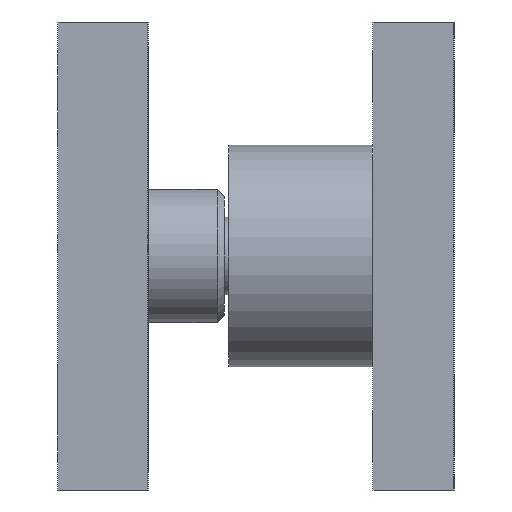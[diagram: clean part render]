
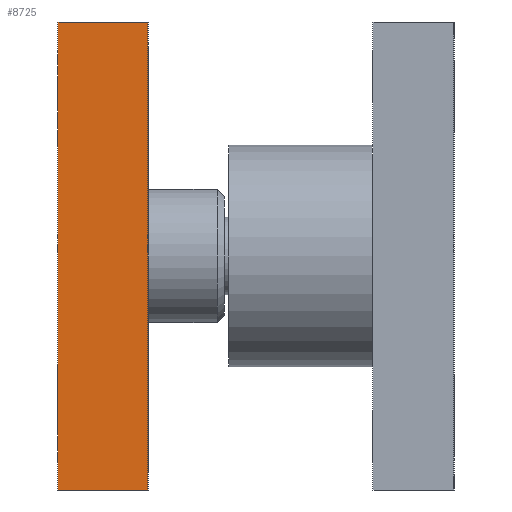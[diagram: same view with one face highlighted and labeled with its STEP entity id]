
A CAD part, left-side view. The second image highlights one B-rep face of the part: STEP entity #8725.
In plain terms, the highlighted planar face has unit normal (-1, 0, 0).
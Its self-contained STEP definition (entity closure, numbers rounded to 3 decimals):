
#145=PLANE('',#9378);
#780=FACE_OUTER_BOUND('',#1314,.T.);
#1314=EDGE_LOOP('',(#7761,#7762,#7763,#7764));
#2485=LINE('',#46476,#2970);
#2504=LINE('',#46531,#2989);
#2505=LINE('',#46534,#2990);
#2506=LINE('',#46535,#2991);
#2970=VECTOR('',#11009,10.);
#2989=VECTOR('',#11066,10.);
#2990=VECTOR('',#11069,10.);
#2991=VECTOR('',#11070,10.);
#3823=VERTEX_POINT('',#46469);
#3826=VERTEX_POINT('',#46474);
#3843=VERTEX_POINT('',#46528);
#3844=VERTEX_POINT('',#46533);
#5130=EDGE_CURVE('',#3826,#3823,#2485,.T.);
#5158=EDGE_CURVE('',#3843,#3823,#2504,.T.);
#5159=EDGE_CURVE('',#3843,#3844,#2505,.T.);
#5160=EDGE_CURVE('',#3844,#3826,#2506,.T.);
#7761=ORIENTED_EDGE('',*,*,#5159,.F.);
#7762=ORIENTED_EDGE('',*,*,#5158,.T.);
#7763=ORIENTED_EDGE('',*,*,#5130,.F.);
#7764=ORIENTED_EDGE('',*,*,#5160,.F.);
#8725=ADVANCED_FACE('',(#780),#145,.T.);
#9378=AXIS2_PLACEMENT_3D('',#46532,#11067,#11068);
#11009=DIRECTION('',(0.,0.,-1.));
#11066=DIRECTION('',(0.,-1.,0.));
#11067=DIRECTION('center_axis',(-1.,0.,0.));
#11068=DIRECTION('ref_axis',(0.,0.,-1.));
#11069=DIRECTION('',(0.,0.,1.));
#11070=DIRECTION('',(0.,-1.,0.));
#46469=CARTESIAN_POINT('',(-100.,170.,-130.));
#46474=CARTESIAN_POINT('',(-100.,170.,130.));
#46476=CARTESIAN_POINT('',(-100.,170.,65.));
#46528=CARTESIAN_POINT('',(-100.,220.,-130.));
#46531=CARTESIAN_POINT('',(-100.,220.,-130.));
#46532=CARTESIAN_POINT('Origin',(-100.,220.,130.));
#46533=CARTESIAN_POINT('',(-100.,220.,130.));
#46534=CARTESIAN_POINT('',(-100.,220.,-130.));
#46535=CARTESIAN_POINT('',(-100.,220.,130.));
